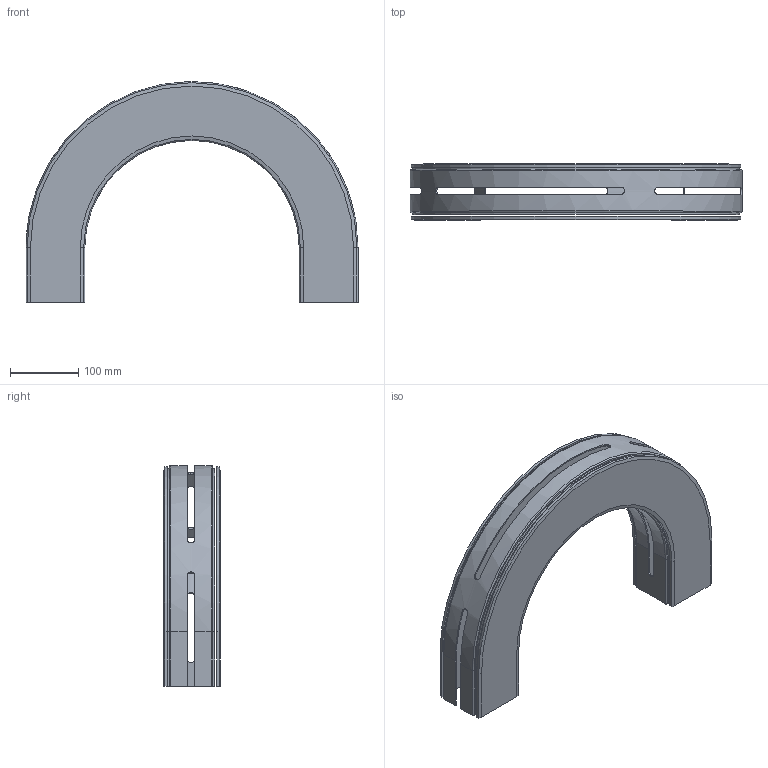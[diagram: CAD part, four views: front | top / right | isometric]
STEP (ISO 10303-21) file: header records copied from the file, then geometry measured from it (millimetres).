
FILE_DESCRIPTION((''),'2;1');
FILE_NAME('C:\Vault Klient\Projekt\Koncept konstruktion\Serie 530 Balk\530-5170.stp','2010-12-01T07:59:00',('Mathias'),(''),'Autodesk Inventor 2011','Autodesk Inventor 2011','');
FILE_SCHEMA(('AUTOMOTIVE_DESIGN { 1 0 10303 214 1 1 1 1 }'));
Length unit declared in the file: millimetre
Products named in the file (1): 530-5170
Bounding box: 486 x 82 x 323 mm (x, y, z)
Volume: 1140828.9 mm3; surface area: 545761.3 mm2
Topology: 2 solids, 2 shells, 171 faces, 482 edges, 316 vertices
Faces by surface type: plane 111, cylinder 30, bspline 22, torus 4, cone 4
Entity records: 6078 total; most frequent: CARTESIAN_POINT 1620, ORIENTED_EDGE 964, DIRECTION 830, EDGE_CURVE 482, VECTOR 346, LINE 346, VERTEX_POINT 316, AXIS2_PLACEMENT_3D 242
